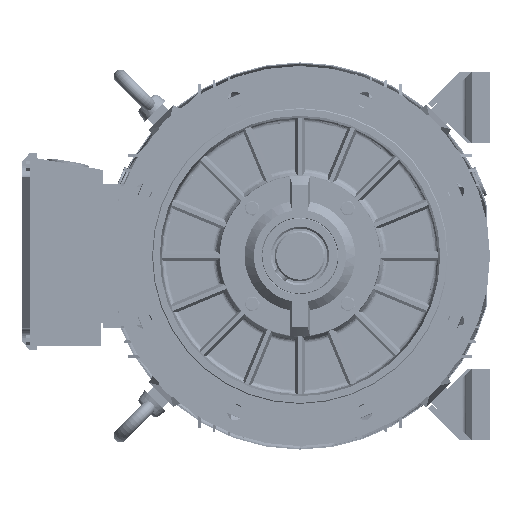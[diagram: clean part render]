
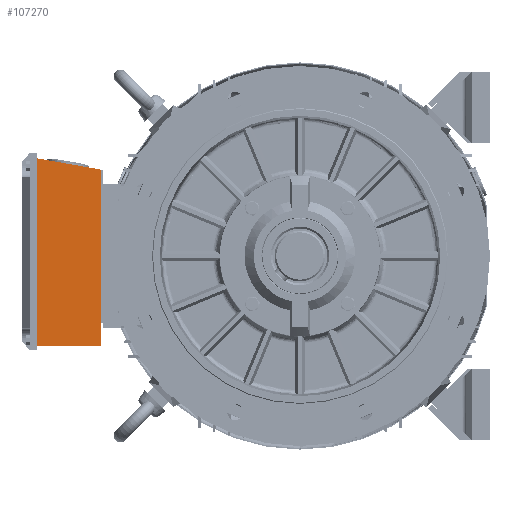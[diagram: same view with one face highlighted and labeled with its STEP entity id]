
A CAD part, left-side view. The second image highlights one B-rep face of the part: STEP entity #107270.
In plain terms, the highlighted planar face has unit normal (-1, 0, 0) as drawn and (0, 0, 1) by its records, which use the part's own axes.
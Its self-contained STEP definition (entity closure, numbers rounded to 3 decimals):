
#106793 = EDGE_CURVE ( 'NONE', #107083, #107041, #248204, .T. ) ;
#107039 = EDGE_CURVE ( 'NONE', #107041, #107044, #248665, .T. ) ;
#107041 = VERTEX_POINT ( 'NONE', #248660 ) ;
#107044 = VERTEX_POINT ( 'NONE', #248650 ) ;
#107083 = VERTEX_POINT ( 'NONE', #248717 ) ;
#107093 = EDGE_CURVE ( 'NONE', #107094, #107083, #248764, .T. ) ;
#107094 = VERTEX_POINT ( 'NONE', #248760 ) ;
#107143 = EDGE_CURVE ( 'NONE', #107044, #107094, #248804, .T. ) ;
#107186 = EDGE_LOOP ( 'NONE', ( #107191, #107197, #107202, #107207 ) ) ;
#107191 = ORIENTED_EDGE ( 'NONE', *, *, #107039, .T. ) ;
#107197 = ORIENTED_EDGE ( 'NONE', *, *, #107143, .T. ) ;
#107202 = ORIENTED_EDGE ( 'NONE', *, *, #107093, .T. ) ;
#107207 = ORIENTED_EDGE ( 'NONE', *, *, #106793, .T. ) ;
#107270 = ADVANCED_FACE ( 'NONE', ( #249041 ), #249040, .F. ) ;
#248204 = LINE ( 'NONE', #248267, #248266 ) ;
#248265 = DIRECTION ( 'NONE',  ( -1., 0., 0. ) ) ;
#248266 = VECTOR ( 'NONE', #248265, 1000. ) ;
#248267 = CARTESIAN_POINT ( 'NONE',  ( 0., 76., 0. ) ) ;
#248650 = CARTESIAN_POINT ( 'NONE',  ( 0., 0., 0. ) ) ;
#248660 = CARTESIAN_POINT ( 'NONE',  ( 0., 76., 0. ) ) ;
#248662 = DIRECTION ( 'NONE',  ( 0., -1., 0. ) ) ;
#248663 = VECTOR ( 'NONE', #248662, 1000. ) ;
#248664 = CARTESIAN_POINT ( 'NONE',  ( 0., 0., 0. ) ) ;
#248665 = LINE ( 'NONE', #248664, #248663 ) ;
#248717 = CARTESIAN_POINT ( 'NONE',  ( 222.401, 76., 0. ) ) ;
#248760 = CARTESIAN_POINT ( 'NONE',  ( 209., 0., 0. ) ) ;
#248761 = DIRECTION ( 'NONE',  ( 0.174, 0.985, 0. ) ) ;
#248762 = VECTOR ( 'NONE', #248761, 1000. ) ;
#248763 = CARTESIAN_POINT ( 'NONE',  ( 209., 0., 0. ) ) ;
#248764 = LINE ( 'NONE', #248763, #248762 ) ;
#248804 = LINE ( 'NONE', #248861, #248860 ) ;
#248859 = DIRECTION ( 'NONE',  ( 1., 0., 0. ) ) ;
#248860 = VECTOR ( 'NONE', #248859, 1000. ) ;
#248861 = CARTESIAN_POINT ( 'NONE',  ( 0., 0., 0. ) ) ;
#249036 = DIRECTION ( 'NONE',  ( -1., 0., 0. ) ) ;
#249037 = DIRECTION ( 'NONE',  ( 0., 0., -1. ) ) ;
#249038 = CARTESIAN_POINT ( 'NONE',  ( 0., 76., 0. ) ) ;
#249039 = AXIS2_PLACEMENT_3D ( 'NONE', #249038, #249037, #249036 ) ;
#249040 = PLANE ( 'NONE',  #249039 ) ;
#249041 = FACE_OUTER_BOUND ( 'NONE', #107186, .T. ) ;
